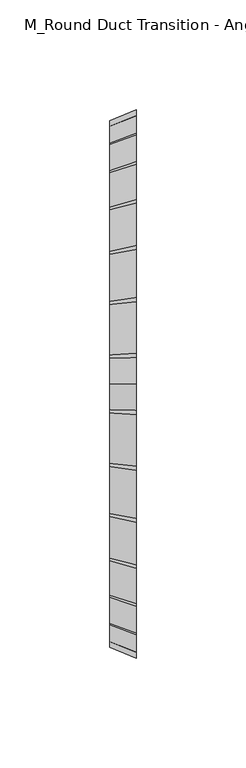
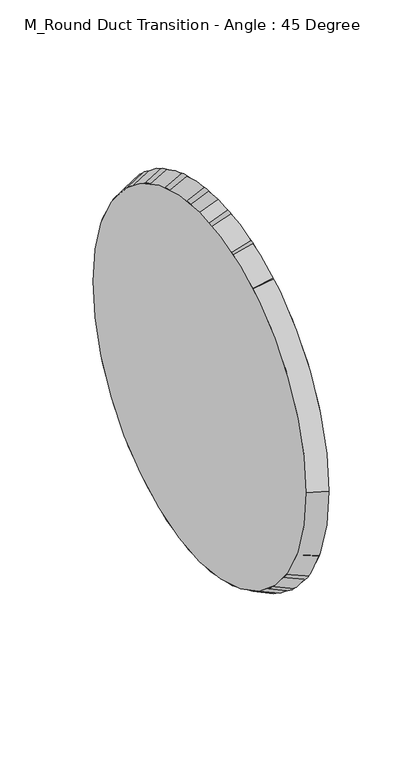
"""IFC4 building model written with IfcOpenShell, lengths in millimetres: duct fitting geometry, M_Round Duct Transition - Angle : 45 Degree."""

from ifc_helpers import new_model, si_unit, frame, origin, place, context, project, spatial, polyline, circle_curve, source, transform, mapped, element, save
from ifc_brep_helpers import plane_surface, revolved_surface, advanced_brep


def m_round_duct_transition_angle_45_degree_5235cf4d(model_context):
    return source(origin(), model_context, "Body", "AdvancedBrep", [
        advanced_brep(
        [(12.0710678, -125.0, 0.0), (12.0710678, 0.0, -125.0), (12.0710678, 125.0, 0.0), (12.0710678, 0.0, 125.0), (0.0, -120.0, 0.0), (0.0, 0.0, 120.0), (0.0, 120.0, 0.0), (0.0, 0.0, -120.0)],
        [
            (0, 1, circle_curve(frame((12.0710678, 0.0, 0.0), z_axis=(1.0, 0.0, 0.0), x_axis=(0.0, -1.0, 0.0)), 125.0)),
            (1, 2, circle_curve(frame((12.0710678, 0.0, 0.0), z_axis=(1.0, 0.0, 0.0), x_axis=(0.0, 0.0, -1.0)), 125.0)),
            (2, 3, circle_curve(frame((12.0710678, 0.0, 0.0), z_axis=(1.0, 0.0, 0.0), x_axis=(0.0, 1.0, 0.0)), 125.0)),
            (3, 0, circle_curve(frame((12.0710678, 0.0, 0.0), z_axis=(1.0, 0.0, 0.0), x_axis=(0.0, 0.0, 1.0)), 125.0)),
            (4, 5, circle_curve(frame((0.0, 0.0, 0.0), z_axis=(-1.0, 0.0, 0.0), x_axis=(0.0, 0.0, 1.0)), 120.0)),
            (5, 6, circle_curve(frame((0.0, 0.0, 0.0), z_axis=(-1.0, 0.0, 0.0), x_axis=(0.0, 1.0, 0.0)), 120.0)),
            (6, 7, circle_curve(frame((0.0, 0.0, 0.0), z_axis=(-1.0, 0.0, 0.0), x_axis=(0.0, 0.0, -1.0)), 120.0)),
            (7, 4, circle_curve(frame((0.0, 0.0, 0.0), z_axis=(-1.0, 0.0, 0.0), x_axis=(0.0, -1.0, 0.0)), 120.0)),
            (7, 1),
            (0, 4),
            (6, 2),
            (5, 3),
        ],
        [
            plane_surface(frame((12.0710678, 0.0, 0.0), z_axis=(1.0, 0.0, 0.0), x_axis=(0.0, 0.0, -1.0))),
            plane_surface(frame((0.0, 0.0, 0.0), z_axis=(-1.0, 0.0, 0.0), x_axis=(0.0, 0.0, -1.0))),
            revolved_surface(polyline([(0.0, 0.0, -120.00000000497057), (12.07106779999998, 0.0, -125.0)]), (-289.7056275, 0.0, 0.0), (1.0, 0.0, 0.0)),
            revolved_surface(polyline([(0.0, 120.00000000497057, 0.0), (12.07106779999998, 125.0, 0.0)]), (-289.7056275, 0.0, 0.0), (1.0, 0.0, 0.0)),
            revolved_surface(polyline([(0.0, 0.0, 120.00000000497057), (12.07106779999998, 0.0, 125.0)]), (-289.7056275, 0.0, 0.0), (1.0, 0.0, 0.0)),
            revolved_surface(polyline([(0.0, -120.00000000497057, 0.0), (12.07106779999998, -125.0, 0.0)]), (-289.7056275, 0.0, 0.0), (1.0, 0.0, 0.0)),
        ],
        [
            (0, [[1, 2, 3, 4]]),
            (1, [[5, 6, 7, 8]]),
            (2, [[-8, 9, -1, 10]]),
            (3, [[-7, 11, -2, -9]]),
            (4, [[-6, 12, -3, -11]]),
            (5, [[-5, -10, -4, -12]]),
        ],
    ),
        advanced_brep(
        [(0.0, -120.0, 0.0), (0.0, 0.0, 120.0), (0.0, 120.0, 0.0), (0.0, 0.0, -120.0), (12.0710678, -125.0, 0.0), (12.0710678, 0.0, -125.0), (12.0710678, 125.0, 0.0), (12.0710678, 0.0, 125.0)],
        [
            (0, 1, circle_curve(frame((0.0, 0.0, 0.0), z_axis=(-1.0, 0.0, 0.0), x_axis=(0.0, -1.0, 0.0)), 120.0)),
            (1, 2, circle_curve(frame((0.0, 0.0, 0.0), z_axis=(-1.0, 0.0, 0.0), x_axis=(0.0, 0.0, 1.0)), 120.0)),
            (2, 3, circle_curve(frame((0.0, 0.0, 0.0), z_axis=(-1.0, 0.0, 0.0), x_axis=(0.0, 1.0, 0.0)), 120.0)),
            (3, 0, circle_curve(frame((0.0, 0.0, 0.0), z_axis=(-1.0, 0.0, 0.0), x_axis=(0.0, 0.0, -1.0)), 120.0)),
            (4, 5, circle_curve(frame((12.0710678, 0.0, 0.0), z_axis=(1.0, 0.0, 0.0), x_axis=(0.0, 0.0, -1.0)), 125.0)),
            (5, 6, circle_curve(frame((12.0710678, 0.0, 0.0), z_axis=(1.0, 0.0, 0.0), x_axis=(0.0, 1.0, 0.0)), 125.0)),
            (6, 7, circle_curve(frame((12.0710678, 0.0, 0.0), z_axis=(1.0, 0.0, 0.0), x_axis=(0.0, 0.0, 1.0)), 125.0)),
            (7, 4, circle_curve(frame((12.0710678, 0.0, 0.0), z_axis=(1.0, 0.0, 0.0), x_axis=(0.0, -1.0, 0.0)), 125.0)),
            (7, 1),
            (0, 4),
            (6, 2),
            (5, 3),
        ],
        [
            plane_surface(frame((0.0, 0.0, 0.0), z_axis=(-1.0, 0.0, 0.0), x_axis=(0.0, 0.0, -1.0))),
            plane_surface(frame((12.0710678, 0.0, 0.0), z_axis=(1.0, 0.0, 0.0), x_axis=(0.0, 0.0, -1.0))),
            revolved_surface(polyline([(0.0, -120.00000000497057, 0.0), (12.07106779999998, -125.0, 0.0)]), (-289.7056275, 0.0, 0.0), (1.0, 0.0, 0.0)),
            revolved_surface(polyline([(0.0, 0.0, 120.00000000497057), (12.07106779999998, 0.0, 125.0)]), (-289.7056275, 0.0, 0.0), (1.0, 0.0, 0.0)),
            revolved_surface(polyline([(0.0, 120.00000000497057, 0.0), (12.07106779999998, 125.0, 0.0)]), (-289.7056275, 0.0, 0.0), (1.0, 0.0, 0.0)),
            revolved_surface(polyline([(0.0, 0.0, -120.00000000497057), (12.07106779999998, 0.0, -125.0)]), (-289.7056275, 0.0, 0.0), (1.0, 0.0, 0.0)),
        ],
        [
            (0, [[1, 2, 3, 4]]),
            (1, [[5, 6, 7, 8]]),
            (2, [[-8, 9, -1, 10]]),
            (3, [[-7, 11, -2, -9]]),
            (4, [[-6, 12, -3, -11]]),
            (5, [[-5, -10, -4, -12]]),
        ],
    ),
        advanced_brep(
        [(12.0710678, -125.0, 0.0), (12.0710678, 125.0, 0.0), (0.0, -120.0, 0.0), (0.0, 120.0, 0.0)],
        [
            (0, 1, circle_curve(frame((12.0710678, 0.0, 0.0), z_axis=(1.0, 0.0, 0.0), x_axis=(0.0, -1.0, 0.0)), 125.0)),
            (1, 0, circle_curve(frame((12.0710678, 0.0, 0.0), z_axis=(1.0, 0.0, 0.0), x_axis=(0.0, 1.0, 0.0)), 125.0)),
            (2, 3, circle_curve(frame((0.0, 0.0, 0.0), z_axis=(-1.0, 0.0, 0.0), x_axis=(0.0, 1.0, 0.0)), 120.0)),
            (3, 2, circle_curve(frame((0.0, 0.0, 0.0), z_axis=(-1.0, 0.0, 0.0), x_axis=(0.0, -1.0, 0.0)), 120.0)),
            (3, 1),
            (0, 2),
        ],
        [
            plane_surface(frame((12.0710678, 0.0, 0.0), z_axis=(1.0, 0.0, 0.0), x_axis=(0.0, 0.0, -1.0))),
            plane_surface(frame((0.0, 0.0, 0.0), z_axis=(-1.0, 0.0, 0.0), x_axis=(0.0, 0.0, -1.0))),
            revolved_surface(polyline([(0.0, 120.00000000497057, 0.0), (12.07106779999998, 125.0, 0.0)]), (-289.7056275, 0.0, 0.0), (1.0, 0.0, 0.0)),
            revolved_surface(polyline([(0.0, -120.00000000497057, 0.0), (12.07106779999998, -125.0, 0.0)]), (-289.7056275, 0.0, 0.0), (1.0, 0.0, 0.0)),
        ],
        [
            (0, [[1, 2]]),
            (1, [[3, 4]]),
            (2, [[-4, 5, -1, 6]]),
            (3, [[-3, -6, -2, -5]]),
        ],
    ),
    ])


if __name__ == "__main__":
    model = new_model("IFC4")
    model_context = context("Model", 3, world=origin())
    ifc_project = project(units=[si_unit("LENGTHUNIT", "METRE", prefix="MILLI")], contexts=[model_context])
    site = spatial("IfcSite", under=ifc_project)
    building = spatial("IfcBuilding", under=site)
    placement = place(None, origin())
    m_round_duct_transition_angle_45_degree_shape = m_round_duct_transition_angle_45_degree_5235cf4d(model_context)
    element("IfcDuctFitting", 1, ObjectType="M_Round Duct Transition - Angle : 45 Degree", at=placement, inside=building, context=model_context, shape_type="MappedRepresentation", body=[
        mapped(m_round_duct_transition_angle_45_degree_shape, transform((0.0, 0.0, 0.0), x_axis=(1.0, 0.0, 0.0), y_axis=(0.0, 1.0, 0.0), z_axis=(0.0, 0.0, 1.0))),
    ])
    save(model, "model.ifc")
